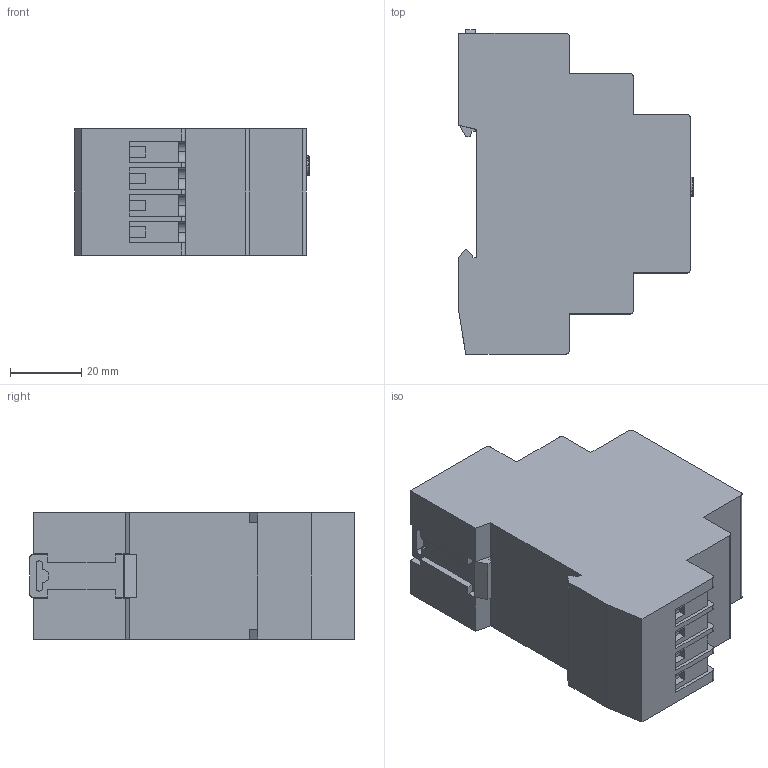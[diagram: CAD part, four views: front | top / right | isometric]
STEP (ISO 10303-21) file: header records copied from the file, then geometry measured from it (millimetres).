
FILE_DESCRIPTION (( 'STEP AP203' ), '1' );
FILE_NAME ('Ðåëå óðîâíÿ æèäêîñòè RL-2Z.STEP', '2021-11-25T20:44:38', ( '' ), ( '' ), 'SwSTEP 2.0', 'SolidWorks 2017', '' );
FILE_SCHEMA (( 'CONFIG_CONTROL_DESIGN' ));
Length unit declared in the file: millimetre
Products named in the file (1): Ðåëå óðîâíÿ æèäêîñòè RL-2Z
Bounding box: 65.8 x 91 x 35.4 mm (x, y, z)
Volume: 157725.5 mm3; surface area: 23146.7 mm2
Topology: 11 solids, 11 shells, 399 faces, 1091 edges, 724 vertices
Faces by surface type: plane 287, cylinder 105, torus 6, sphere 1
Entity records: 12652 total; most frequent: CARTESIAN_POINT 2212, ORIENTED_EDGE 2178, DIRECTION 2113, EDGE_CURVE 1089, LINE 865, VECTOR 865, VERTEX_POINT 723, AXIS2_PLACEMENT_3D 624
